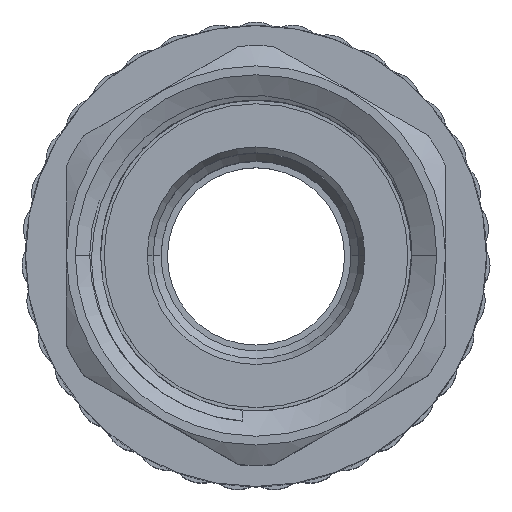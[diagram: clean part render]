
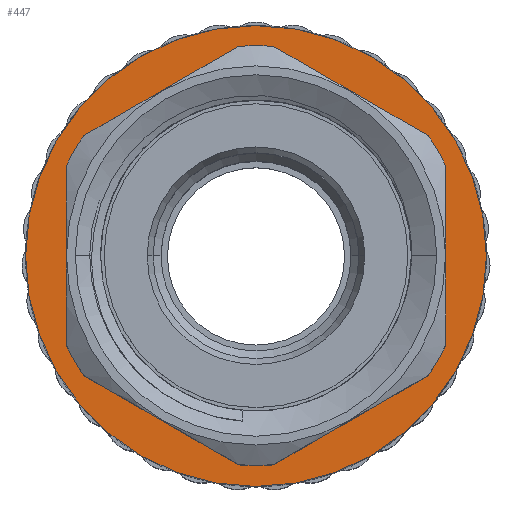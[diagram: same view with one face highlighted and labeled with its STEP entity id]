
A CAD part, top view. The second image highlights one B-rep face of the part: STEP entity #447.
In plain terms, the highlighted planar face has unit normal (0, 0, 1).
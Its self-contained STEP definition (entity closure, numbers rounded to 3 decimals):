
#68 = ORIENTED_EDGE ( 'NONE', *, *, #4319, .F. ) ;
#103 = CARTESIAN_POINT ( 'NONE',  ( 10.05, 0., 0. ) ) ;
#176 = FACE_BOUND ( 'NONE', #8508, .T. ) ;
#268 = VERTEX_POINT ( 'NONE', #8668 ) ;
#447 = ADVANCED_FACE ( 'NONE', ( #176, #5259 ), #7425, .F. ) ;
#721 = AXIS2_PLACEMENT_3D ( 'NONE', #844, #8730, #8825 ) ;
#742 = VERTEX_POINT ( 'NONE', #1475 ) ;
#844 = CARTESIAN_POINT ( 'NONE',  ( 0., 0., 0. ) ) ;
#1475 = CARTESIAN_POINT ( 'NONE',  ( -10.05, 0., 0. ) ) ;
#1761 = ORIENTED_EDGE ( 'NONE', *, *, #7013, .T. ) ;
#2404 = CARTESIAN_POINT ( 'NONE',  ( 0., 18.2, 0. ) ) ;
#2427 = DIRECTION ( 'NONE',  ( 0., 0., 1. ) ) ;
#2735 = ORIENTED_EDGE ( 'NONE', *, *, #6974, .T. ) ;
#3036 = DIRECTION ( 'NONE',  ( 0., 0., 1. ) ) ;
#3167 = CIRCLE ( 'NONE', #8176, 18.2 ) ;
#3615 = CARTESIAN_POINT ( 'NONE',  ( -18.2, 0., 0. ) ) ;
#3793 = DIRECTION ( 'NONE',  ( -1., 0., 0. ) ) ;
#3913 = CIRCLE ( 'NONE', #721, 18.2 ) ;
#4207 = VERTEX_POINT ( 'NONE', #103 ) ;
#4319 = EDGE_CURVE ( 'NONE', #742, #4207, #5380, .T. ) ;
#4503 = CARTESIAN_POINT ( 'NONE',  ( 0., 0., 0. ) ) ;
#4956 = CIRCLE ( 'NONE', #7673, 10.05 ) ;
#5103 = VERTEX_POINT ( 'NONE', #3615 ) ;
#5259 = FACE_OUTER_BOUND ( 'NONE', #9348, .T. ) ;
#5271 = DIRECTION ( 'NONE',  ( 1., 0., 0. ) ) ;
#5304 = DIRECTION ( 'NONE',  ( 0., 0., -1. ) ) ;
#5380 = CIRCLE ( 'NONE', #6896, 10.05 ) ;
#6698 = DIRECTION ( 'NONE',  ( 0., 0., 1. ) ) ;
#6776 = DIRECTION ( 'NONE',  ( -1., 0., 0. ) ) ;
#6896 = AXIS2_PLACEMENT_3D ( 'NONE', #8930, #2427, #7585 ) ;
#6974 = EDGE_CURVE ( 'NONE', #268, #5103, #3913, .T. ) ;
#7013 = EDGE_CURVE ( 'NONE', #5103, #268, #3167, .T. ) ;
#7102 = ORIENTED_EDGE ( 'NONE', *, *, #9007, .F. ) ;
#7425 = PLANE ( 'NONE',  #8074 ) ;
#7585 = DIRECTION ( 'NONE',  ( -1., 0., 0. ) ) ;
#7673 = AXIS2_PLACEMENT_3D ( 'NONE', #4503, #6698, #3793 ) ;
#8074 = AXIS2_PLACEMENT_3D ( 'NONE', #2404, #5304, #6776 ) ;
#8116 = CARTESIAN_POINT ( 'NONE',  ( 0., 0., 0. ) ) ;
#8176 = AXIS2_PLACEMENT_3D ( 'NONE', #8116, #3036, #5271 ) ;
#8508 = EDGE_LOOP ( 'NONE', ( #7102, #68 ) ) ;
#8668 = CARTESIAN_POINT ( 'NONE',  ( 18.2, 0., 0. ) ) ;
#8730 = DIRECTION ( 'NONE',  ( 0., 0., 1. ) ) ;
#8825 = DIRECTION ( 'NONE',  ( 1., 0., 0. ) ) ;
#8930 = CARTESIAN_POINT ( 'NONE',  ( 0., 0., 0. ) ) ;
#9007 = EDGE_CURVE ( 'NONE', #4207, #742, #4956, .T. ) ;
#9348 = EDGE_LOOP ( 'NONE', ( #2735, #1761 ) ) ;
